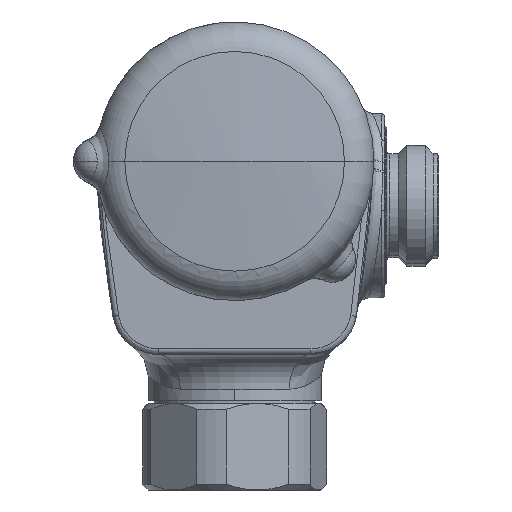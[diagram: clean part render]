
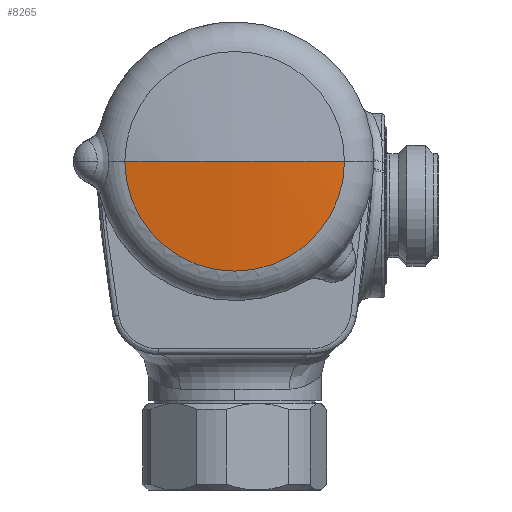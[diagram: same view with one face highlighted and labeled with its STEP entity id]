
A CAD part, left-side view. The second image highlights one B-rep face of the part: STEP entity #8265.
In plain terms, the highlighted spherical face has radius 130 mm.
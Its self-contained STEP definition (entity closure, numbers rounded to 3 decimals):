
#153 = DIRECTION ( 'NONE',  ( 0., 0., -1. ) ) ;
#303 = CIRCLE ( 'NONE', #9581, 130. ) ;
#860 = ORIENTED_EDGE ( 'NONE', *, *, #2389, .F. ) ;
#880 = CIRCLE ( 'NONE', #1510, 130. ) ;
#939 = CARTESIAN_POINT ( 'NONE',  ( -143.646, -19.051, 57. ) ) ;
#1176 = DIRECTION ( 'NONE',  ( 0., 1., 0. ) ) ;
#1510 = AXIS2_PLACEMENT_3D ( 'NONE', #10173, #3317, #8442 ) ;
#1548 = AXIS2_PLACEMENT_3D ( 'NONE', #1643, #153, #6232 ) ;
#1643 = CARTESIAN_POINT ( 'NONE',  ( -15.049, 0., 57. ) ) ;
#2068 = CARTESIAN_POINT ( 'NONE',  ( -15.049, 0., 57. ) ) ;
#2231 = CARTESIAN_POINT ( 'NONE',  ( -143.646, 19.051, 57. ) ) ;
#2253 = EDGE_CURVE ( 'NONE', #10076, #8430, #6201, .T. ) ;
#2389 = EDGE_CURVE ( 'NONE', #6860, #8430, #880, .T. ) ;
#2680 = CARTESIAN_POINT ( 'NONE',  ( -145.049, 0., 57. ) ) ;
#3317 = DIRECTION ( 'NONE',  ( 0., 0., 1. ) ) ;
#4178 = ORIENTED_EDGE ( 'NONE', *, *, #2253, .T. ) ;
#5701 = AXIS2_PLACEMENT_3D ( 'NONE', #8675, #9554, #7829 ) ;
#5769 = EDGE_LOOP ( 'NONE', ( #860, #9528, #4178 ) ) ;
#6135 = SPHERICAL_SURFACE ( 'NONE', #1548, 130. ) ;
#6201 = CIRCLE ( 'NONE', #5701, 19.051 ) ;
#6232 = DIRECTION ( 'NONE',  ( 0., -1., 0. ) ) ;
#6786 = FACE_OUTER_BOUND ( 'NONE', #5769, .T. ) ;
#6860 = VERTEX_POINT ( 'NONE', #2680 ) ;
#7192 = EDGE_CURVE ( 'NONE', #6860, #10076, #303, .T. ) ;
#7829 = DIRECTION ( 'NONE',  ( 0., -1., 0. ) ) ;
#8265 = ADVANCED_FACE ( 'NONE', ( #6786 ), #6135, .T. ) ;
#8430 = VERTEX_POINT ( 'NONE', #939 ) ;
#8442 = DIRECTION ( 'NONE',  ( 1., 0., 0. ) ) ;
#8675 = CARTESIAN_POINT ( 'NONE',  ( -143.646, 0., 57. ) ) ;
#8954 = DIRECTION ( 'NONE',  ( 0., 0., -1. ) ) ;
#9528 = ORIENTED_EDGE ( 'NONE', *, *, #7192, .T. ) ;
#9554 = DIRECTION ( 'NONE',  ( -1., 0., 0. ) ) ;
#9581 = AXIS2_PLACEMENT_3D ( 'NONE', #2068, #8954, #1176 ) ;
#10076 = VERTEX_POINT ( 'NONE', #2231 ) ;
#10173 = CARTESIAN_POINT ( 'NONE',  ( -15.049, 0., 57. ) ) ;
